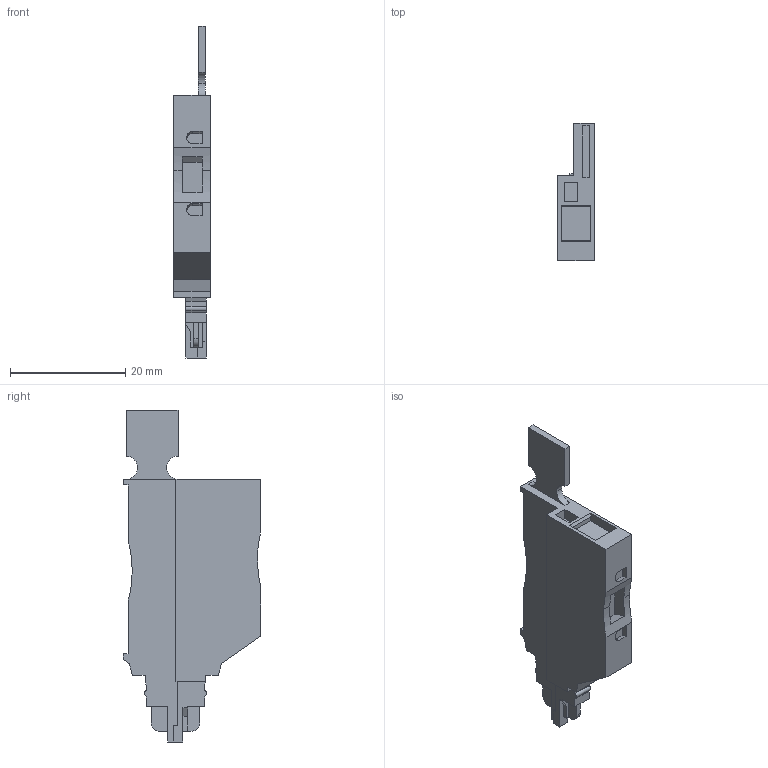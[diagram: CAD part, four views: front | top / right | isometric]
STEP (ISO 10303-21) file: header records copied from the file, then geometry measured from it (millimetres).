
FILE_DESCRIPTION(('TFLEX Exchange Step'),'2;1');
FILE_NAME('10200042_ПР-KH_250_(5x20).stp', '2024-11-11T09:05:58+03:00',('apanin'),('Unknown organisation'),'TFLEX Exchange 2023.2','T-FLEX CAD','Unknown authorisation');
FILE_SCHEMA( ('AUTOMOTIVE_DESIGN { 1 0 10303 214 1 1 1 1 }') );
Length unit declared in the file: millimetre
Products named in the file (1): Nodes
Bounding box: 6.35 x 23.85 x 57.55 mm (x, y, z)
Volume: 4186.1 mm3; surface area: 2791.8 mm2
Topology: 1 solids, 1 shells, 327 faces, 939 edges, 626 vertices
Faces by surface type: cylinder 175, plane 152
Entity records: 10876 total; most frequent: DIRECTION 1941, CARTESIAN_POINT 1909, ORIENTED_EDGE 1878, EDGE_CURVE 939, AXIS2_PLACEMENT_3D 678, VERTEX_POINT 626, VECTOR 585, LINE 585
